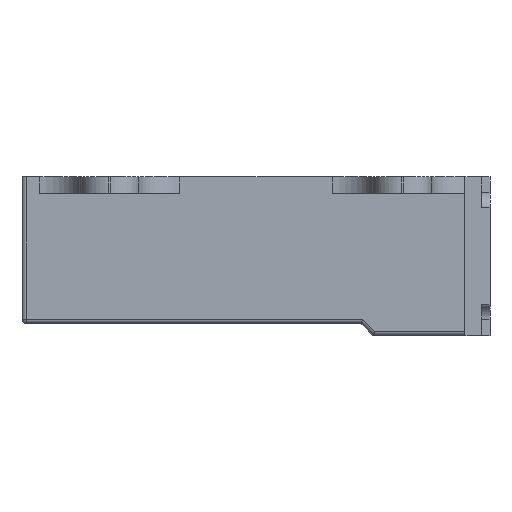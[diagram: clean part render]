
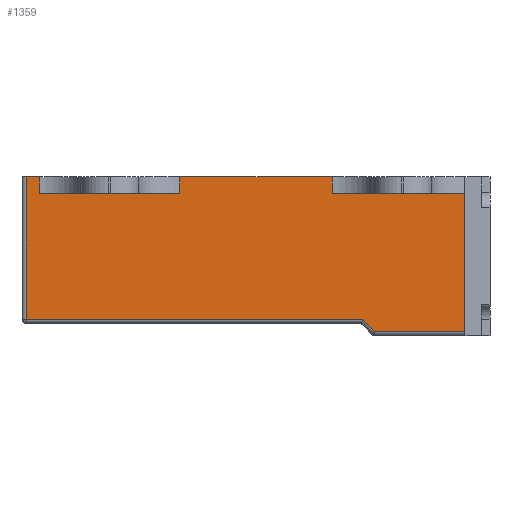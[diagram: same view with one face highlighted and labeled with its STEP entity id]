
A CAD part, front view. The second image highlights one B-rep face of the part: STEP entity #1359.
In plain terms, the highlighted planar face has unit normal (0, -1, 0).
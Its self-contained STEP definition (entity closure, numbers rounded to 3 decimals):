
#31=DIRECTION('',(1.,0.,0.));
#32=VECTOR('',#31,40.257);
#33=CARTESIAN_POINT('',(0.5,-14.55,-7.55));
#34=LINE('',#33,#32);
#48=DIRECTION('',(1.,0.,0.));
#49=VECTOR('',#48,1.617);
#50=CARTESIAN_POINT('',(0.5,-14.55,9.5));
#51=LINE('',#50,#49);
#52=DIRECTION('',(1.,0.,0.));
#53=VECTOR('',#52,18.235);
#54=CARTESIAN_POINT('',(18.883,-14.55,9.5));
#55=LINE('',#54,#53);
#56=DIRECTION('',(-0.707,0.,0.707));
#57=VECTOR('',#56,2.051);
#58=CARTESIAN_POINT('',(42.207,-14.55,-9.));
#59=LINE('',#58,#57);
#64=DIRECTION('',(0.,0.,-1.));
#65=VECTOR('',#64,17.05);
#66=CARTESIAN_POINT('',(0.5,-14.55,9.5));
#67=LINE('',#66,#65);
#160=DIRECTION('',(0.,0.,1.));
#161=VECTOR('',#160,16.5);
#162=CARTESIAN_POINT('',(53.,-14.55,-9.));
#163=LINE('',#162,#161);
#516=DIRECTION('',(-1.,0.,0.));
#517=VECTOR('',#516,15.883);
#518=CARTESIAN_POINT('',(53.,-14.55,7.5));
#519=LINE('',#518,#517);
#550=DIRECTION('',(0.,0.,1.));
#551=VECTOR('',#550,2.);
#552=CARTESIAN_POINT('',(37.117,-14.55,7.5));
#553=LINE('',#552,#551);
#578=DIRECTION('',(0.,0.,-1.));
#579=VECTOR('',#578,2.);
#580=CARTESIAN_POINT('',(18.883,-14.55,9.5));
#581=LINE('',#580,#579);
#586=DIRECTION('',(-1.,0.,0.));
#587=VECTOR('',#586,16.765);
#588=CARTESIAN_POINT('',(18.883,-14.55,7.5));
#589=LINE('',#588,#587);
#620=DIRECTION('',(0.,0.,1.));
#621=VECTOR('',#620,2.);
#622=CARTESIAN_POINT('',(2.117,-14.55,7.5));
#623=LINE('',#622,#621);
#735=DIRECTION('',(1.,0.,0.));
#736=VECTOR('',#735,10.793);
#737=CARTESIAN_POINT('',(42.207,-14.55,-9.));
#738=LINE('',#737,#736);
#1019=CARTESIAN_POINT('',(0.5,-14.55,-7.55));
#1020=CARTESIAN_POINT('',(40.757,-14.55,-7.55));
#1021=VERTEX_POINT('',#1019);
#1022=VERTEX_POINT('',#1020);
#1023=CARTESIAN_POINT('',(0.5,-14.55,9.5));
#1024=VERTEX_POINT('',#1023);
#1025=CARTESIAN_POINT('',(2.117,-14.55,9.5));
#1026=VERTEX_POINT('',#1025);
#1027=CARTESIAN_POINT('',(2.117,-14.55,7.5));
#1028=VERTEX_POINT('',#1027);
#1029=CARTESIAN_POINT('',(18.883,-14.55,7.5));
#1030=VERTEX_POINT('',#1029);
#1031=CARTESIAN_POINT('',(18.883,-14.55,9.5));
#1032=VERTEX_POINT('',#1031);
#1033=CARTESIAN_POINT('',(37.117,-14.55,9.5));
#1034=VERTEX_POINT('',#1033);
#1035=CARTESIAN_POINT('',(37.117,-14.55,7.5));
#1036=VERTEX_POINT('',#1035);
#1037=CARTESIAN_POINT('',(53.,-14.55,7.5));
#1038=VERTEX_POINT('',#1037);
#1039=CARTESIAN_POINT('',(53.,-14.55,-9.));
#1040=VERTEX_POINT('',#1039);
#1041=CARTESIAN_POINT('',(42.207,-14.55,-9.));
#1042=VERTEX_POINT('',#1041);
#1329=CARTESIAN_POINT('',(27.5,-14.55,0.));
#1330=DIRECTION('',(0.,1.,0.));
#1331=DIRECTION('',(0.,0.,1.));
#1332=AXIS2_PLACEMENT_3D('',#1329,#1330,#1331);
#1333=PLANE('',#1332);
#1335=ORIENTED_EDGE('',*,*,#1334,.F.);
#1337=ORIENTED_EDGE('',*,*,#1336,.T.);
#1339=ORIENTED_EDGE('',*,*,#1338,.F.);
#1341=ORIENTED_EDGE('',*,*,#1340,.F.);
#1343=ORIENTED_EDGE('',*,*,#1342,.F.);
#1345=ORIENTED_EDGE('',*,*,#1344,.T.);
#1347=ORIENTED_EDGE('',*,*,#1346,.F.);
#1349=ORIENTED_EDGE('',*,*,#1348,.F.);
#1351=ORIENTED_EDGE('',*,*,#1350,.F.);
#1353=ORIENTED_EDGE('',*,*,#1352,.F.);
#1355=ORIENTED_EDGE('',*,*,#1354,.T.);
#1356=ORIENTED_EDGE('',*,*,#1319,.F.);
#1357=EDGE_LOOP('',(#1335,#1337,#1339,#1341,#1343,#1345,#1347,#1349,#1351,#1353,
#1355,#1356));
#1358=FACE_OUTER_BOUND('',#1357,.F.);
#1319=EDGE_CURVE('',#1021,#1022,#34,.T.);
#1334=EDGE_CURVE('',#1024,#1021,#67,.T.);
#1336=EDGE_CURVE('',#1024,#1026,#51,.T.);
#1338=EDGE_CURVE('',#1028,#1026,#623,.T.);
#1340=EDGE_CURVE('',#1030,#1028,#589,.T.);
#1342=EDGE_CURVE('',#1032,#1030,#581,.T.);
#1344=EDGE_CURVE('',#1032,#1034,#55,.T.);
#1346=EDGE_CURVE('',#1036,#1034,#553,.T.);
#1348=EDGE_CURVE('',#1038,#1036,#519,.T.);
#1350=EDGE_CURVE('',#1040,#1038,#163,.T.);
#1352=EDGE_CURVE('',#1042,#1040,#738,.T.);
#1354=EDGE_CURVE('',#1042,#1022,#59,.T.);
#1359=ADVANCED_FACE('',(#1358),#1333,.F.);
